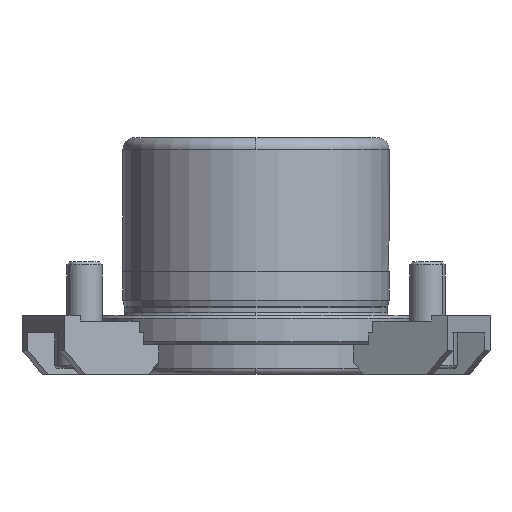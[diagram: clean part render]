
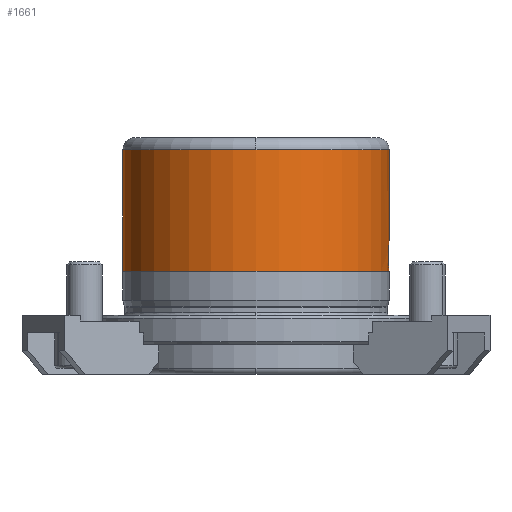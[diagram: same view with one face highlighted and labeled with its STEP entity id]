
A CAD part, front view. The second image highlights one B-rep face of the part: STEP entity #1661.
In plain terms, the highlighted cylindrical face has radius 22.492 mm (diameter 44.984 mm), a partial arc.
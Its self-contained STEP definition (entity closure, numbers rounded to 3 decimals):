
#965=CARTESIAN_POINT('',(-22.492,0.,28.0));
#966=VERTEX_POINT('',#965);
#974=CARTESIAN_POINT('',(0.,-22.492,28.0));
#975=VERTEX_POINT('',#974);
#976=CARTESIAN_POINT('',(0.0,0.,28.0));
#977=DIRECTION('',(0.0,0.0,-1.0));
#978=DIRECTION('',(1.0,0.0,0.0));
#979=AXIS2_PLACEMENT_3D('',#976,#977,#978);
#980=CIRCLE('',#979,22.492);
#981=EDGE_CURVE('',#975,#966,#980,.T.);
#1336=CARTESIAN_POINT('',(22.492,0.,12.6));
#1337=VERTEX_POINT('',#1336);
#1338=CARTESIAN_POINT('',(22.492,0.,28.0));
#1339=VERTEX_POINT('',#1338);
#1340=CARTESIAN_POINT('',(22.492,0.,12.6));
#1341=DIRECTION('',(0.0,0.0,1.0));
#1342=VECTOR('',#1341,15.4);
#1343=LINE('',#1340,#1342);
#1344=EDGE_CURVE('',#1337,#1339,#1343,.T.);
#1346=CARTESIAN_POINT('',(22.492,0.,7.4));
#1347=VERTEX_POINT('',#1346);
#1385=CARTESIAN_POINT('',(-22.492,0.,7.4));
#1386=VERTEX_POINT('',#1385);
#1394=CARTESIAN_POINT('',(-22.492,0.,7.4));
#1395=DIRECTION('',(0.0,0.0,1.0));
#1396=VECTOR('',#1395,20.6);
#1397=LINE('',#1394,#1396);
#1398=EDGE_CURVE('',#1386,#966,#1397,.T.);
#1505=CARTESIAN_POINT('',(22.492,0.,7.4));
#1506=CARTESIAN_POINT('',(22.492,-0.163,7.4));
#1507=CARTESIAN_POINT('',(22.49,-0.332,7.416));
#1508=CARTESIAN_POINT('',(22.483,-0.668,7.482));
#1509=CARTESIAN_POINT('',(22.477,-0.835,7.532));
#1510=CARTESIAN_POINT('',(22.463,-1.156,7.664));
#1511=CARTESIAN_POINT('',(22.454,-1.309,7.747));
#1512=CARTESIAN_POINT('',(22.436,-1.593,7.938));
#1513=CARTESIAN_POINT('',(22.426,-1.723,8.046));
#1514=CARTESIAN_POINT('',(22.407,-1.954,8.277));
#1515=CARTESIAN_POINT('',(22.397,-2.062,8.407));
#1516=CARTESIAN_POINT('',(22.379,-2.253,8.691));
#1517=CARTESIAN_POINT('',(22.371,-2.336,8.844));
#1518=CARTESIAN_POINT('',(22.356,-2.468,9.165));
#1519=CARTESIAN_POINT('',(22.351,-2.518,9.332));
#1520=CARTESIAN_POINT('',(22.343,-2.584,9.668));
#1521=CARTESIAN_POINT('',(22.341,-2.6,9.837));
#1522=CARTESIAN_POINT('',(22.341,-2.6,10.0));
#1523=CARTESIAN_POINT('',(22.341,-2.6,10.163));
#1524=CARTESIAN_POINT('',(22.343,-2.584,10.332));
#1525=CARTESIAN_POINT('',(22.351,-2.518,10.668));
#1526=CARTESIAN_POINT('',(22.356,-2.468,10.835));
#1527=CARTESIAN_POINT('',(22.371,-2.336,11.156));
#1528=CARTESIAN_POINT('',(22.379,-2.253,11.309));
#1529=CARTESIAN_POINT('',(22.397,-2.062,11.593));
#1530=CARTESIAN_POINT('',(22.407,-1.954,11.723));
#1531=CARTESIAN_POINT('',(22.426,-1.723,11.954));
#1532=CARTESIAN_POINT('',(22.436,-1.593,12.062));
#1533=CARTESIAN_POINT('',(22.454,-1.309,12.253));
#1534=CARTESIAN_POINT('',(22.463,-1.156,12.336));
#1535=CARTESIAN_POINT('',(22.477,-0.835,12.468));
#1536=CARTESIAN_POINT('',(22.483,-0.668,12.518));
#1537=CARTESIAN_POINT('',(22.49,-0.332,12.584));
#1538=CARTESIAN_POINT('',(22.492,-0.163,12.6));
#1539=CARTESIAN_POINT('',(22.492,0.,12.6));
#1540=B_SPLINE_CURVE_WITH_KNOTS('',3,(#1505,#1506,#1507,#1508,#1509,#1510,#1511,#1512,#1513,#1514,#1515,#1516,#1517,#1518,#1519,#1520,#1521,#1522,#1523,#1524,#1525,#1526,#1527,#1528,#1529,#1530,#1531,#1532,#1533,#1534,#1535,#1536,#1537,#1538,#1539),.UNSPECIFIED.,.F.,.U.,(4,2,2,2,2,2,2,2,3,2,2,2,2,2,2,2,4),(11.764,12.254,12.744,13.234,13.725,14.215,14.705,15.195,15.685,16.175,16.666,17.156,17.646,18.136,18.626,19.116,19.607),.UNSPECIFIED.);
#1541=EDGE_CURVE('',#1347,#1337,#1540,.T.);
#1636=CARTESIAN_POINT('',(0.0,0.,17.7));
#1637=DIRECTION('',(0.0,0.,-1.0));
#1638=DIRECTION('',(1.0,0.0,0.0));
#1639=AXIS2_PLACEMENT_3D('',#1636,#1637,#1638);
#1640=CYLINDRICAL_SURFACE('',#1639,22.492);
#1641=ORIENTED_EDGE('',*,*,#1344,.T.);
#1642=CARTESIAN_POINT('',(0.0,0.,28.0));
#1643=DIRECTION('',(0.0,0.0,-1.0));
#1644=DIRECTION('',(1.0,0.0,0.0));
#1645=AXIS2_PLACEMENT_3D('',#1642,#1643,#1644);
#1646=CIRCLE('',#1645,22.492);
#1647=EDGE_CURVE('',#1339,#975,#1646,.T.);
#1648=ORIENTED_EDGE('',*,*,#1647,.T.);
#1649=ORIENTED_EDGE('',*,*,#981,.T.);
#1650=ORIENTED_EDGE('',*,*,#1398,.F.);
#1651=CARTESIAN_POINT('',(0.0,0.,7.4));
#1652=DIRECTION('',(0.0,0.0,-1.0));
#1653=DIRECTION('',(1.0,0.0,0.0));
#1654=AXIS2_PLACEMENT_3D('',#1651,#1652,#1653);
#1655=CIRCLE('',#1654,22.492);
#1656=EDGE_CURVE('',#1347,#1386,#1655,.T.);
#1657=ORIENTED_EDGE('',*,*,#1656,.F.);
#1658=ORIENTED_EDGE('',*,*,#1541,.T.);
#1659=EDGE_LOOP('',(#1641,#1648,#1649,#1650,#1657,#1658));
#1660=FACE_OUTER_BOUND('',#1659,.T.);
#1661=ADVANCED_FACE('',(#1660),#1640,.T.);
